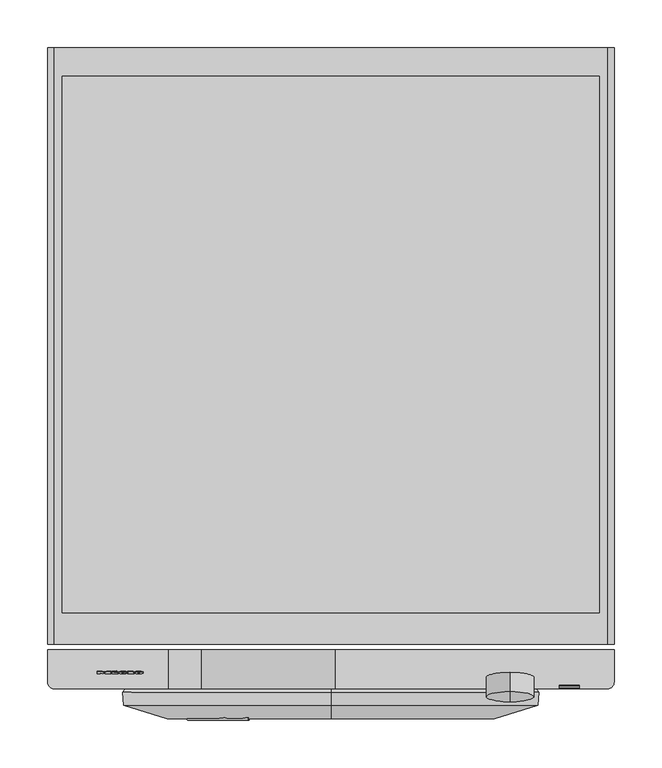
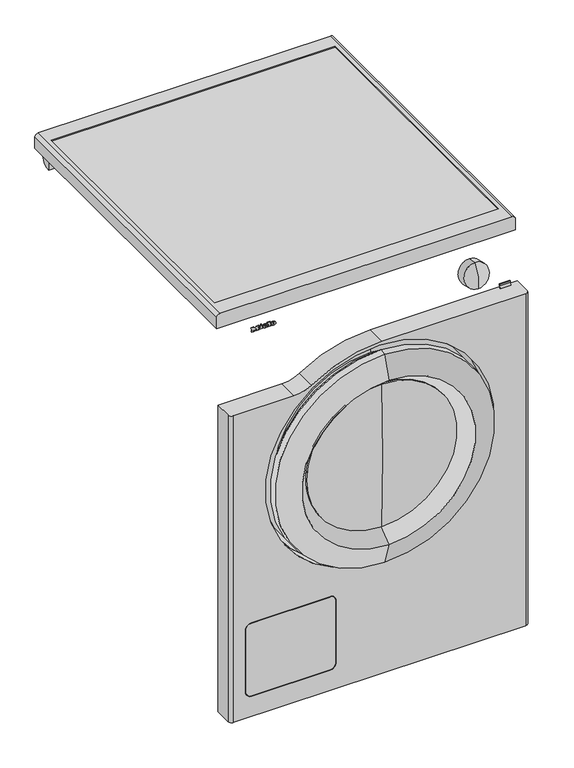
"""IFC4 building model written with IfcOpenShell, lengths in millimetres: proxy geometry, 11470760_ZER_PWM307DP_LWCC : 51307172_ZER_11470760_PWM307DP_LWCC."""

from ifc_helpers import new_model, si_unit, point, frame, frame_2d, origin, place, context, project, spatial, polyline, circle_curve, ellipse_curve, trimmed, segment, composite_curve, outline, extrude, source, transform, mapped, element, save
from ifc_brep_helpers import plane_surface, cylinder_surface, revolved_surface, extruded_surface, advanced_brep


def specialty_equipment_d562a600(model_context):
    return source(origin(), model_context, "Body", "SolidModel", [
        advanced_brep(
        [(-202.64, -661.6785086, 811.5729364), (-202.64, -661.5105159, 812.3632796), (-197.288, -661.5105159, 812.3632796), (-206.6, -661.5105159, 812.3632796), (-204.4, -662.0727091, 809.7183685), (-197.424, -661.6785086, 811.5729364), (-199.84, -661.6785086, 811.5729364), (-201.744, -661.8647975, 810.6965161), (-202.64, -661.2976144, 813.3649028), (-202.64, -661.1163154, 814.2178475), (-201.272, -661.1163154, 814.2178475), (-201.272, -661.2976144, 813.3649028), (-202.64, -660.700361, 811.3650247), (-201.744, -660.8866499, 810.4886044), (-199.84, -660.700361, 811.3650247), (-197.424, -660.700361, 811.3650247), (-204.4, -661.0945615, 809.5104568), (-206.6, -660.5323683, 812.1553679), (-197.288, -660.5323683, 812.1553679), (-202.64, -660.5323683, 812.1553679), (-202.64, -660.3194668, 813.1569911), (-201.272, -660.3194668, 813.1569911), (-201.272, -660.1381678, 814.0099358), (-202.64, -660.1381678, 814.0099358)],
        [
            (0, 1),
            (1, 2),
            (2, 3, ellipse_curve(frame((-201.944, -661.5105159, 812.3632796), z_axis=(0.0, -0.9781476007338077, 0.2079116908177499), x_axis=(-1.0, 0.0, 0.0)), 4.656, 3.848)),
            (3, 4, circle_curve(frame((-203.5039564, -661.453964, 812.6293358), z_axis=(0.0, -0.9781476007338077, 0.2079116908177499), x_axis=(0.0, -0.2079116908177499, -0.9781476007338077)), 3.1079688)),
            (4, 5, circle_curve(frame((-202.0372064, -661.0148545, 814.6951835), z_axis=(0.0, -0.9781476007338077, 0.2079116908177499), x_axis=(0.0, -0.2079116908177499, -0.9781476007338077)), 5.6098607)),
            (5, 6),
            (6, 7, circle_curve(frame((-201.3529412, -661.5238223, 812.3006782), z_axis=(0.0, 0.9781476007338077, -0.2079116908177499), x_axis=(0.0, -0.2079116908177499, -0.9781476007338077)), 1.6859795)),
            (7, 0, circle_curve(frame((-201.744, -661.6785086, 811.5729364), z_axis=(0.0, 0.9781476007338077, -0.2079116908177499), x_axis=(0.0, -0.2079116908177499, -0.9781476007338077)), 0.896)),
            (8, 9),
            (9, 10, circle_curve(frame((-201.956, -661.1163154, 814.2178475), z_axis=(0.0, 0.9781476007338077, -0.2079116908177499), x_axis=(0.0, -0.2079116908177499, -0.9781476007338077)), 0.684)),
            (10, 11),
            (11, 8),
            (12, 13, circle_curve(frame((-201.744, -660.700361, 811.3650247), z_axis=(0.0, -0.9781476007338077, 0.2079116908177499), x_axis=(0.0, -0.2079116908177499, -0.9781476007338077)), 0.896)),
            (13, 14, circle_curve(frame((-201.3529412, -660.5456747, 812.0927665), z_axis=(0.0, -0.9781476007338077, 0.2079116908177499), x_axis=(0.0, -0.2079116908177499, -0.9781476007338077)), 1.6859795)),
            (14, 15),
            (15, 16, circle_curve(frame((-202.0372064, -660.0367069, 814.4872718), z_axis=(0.0, 0.9781476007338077, -0.2079116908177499), x_axis=(0.0, -0.2079116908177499, -0.9781476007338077)), 5.6098607)),
            (16, 17, circle_curve(frame((-203.5039564, -660.4758164, 812.4214241), z_axis=(0.0, 0.9781476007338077, -0.2079116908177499), x_axis=(0.0, -0.2079116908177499, -0.9781476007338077)), 3.1079688)),
            (17, 18, ellipse_curve(frame((-201.944, -660.5323683, 812.1553679), z_axis=(0.0, 0.9781476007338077, -0.2079116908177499), x_axis=(-1.0, 0.0, 0.0)), 4.656, 3.848)),
            (18, 19),
            (19, 12),
            (20, 21),
            (21, 22),
            (22, 23, circle_curve(frame((-201.956, -660.1381678, 814.0099358), z_axis=(0.0, -0.9781476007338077, 0.2079116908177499), x_axis=(0.0, -0.2079116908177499, -0.9781476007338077)), 0.684)),
            (23, 20),
            (0, 12),
            (19, 1),
            (18, 2),
            (5, 15),
            (14, 6),
            (17, 3),
            (13, 7),
            (16, 4),
            (8, 20),
            (23, 9),
            (22, 10),
            (21, 11),
        ],
        [
            plane_surface(frame((-202.64, -661.5105159, 812.3632796), z_axis=(0.0, -0.9781476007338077, 0.2079116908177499), x_axis=(0.0, 0.2079116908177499, 0.9781476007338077))),
            plane_surface(frame((-202.64, -660.5323683, 812.1553679), z_axis=(0.0, 0.9781476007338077, -0.2079116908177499), x_axis=(0.0, -0.2079116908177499, -0.9781476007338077))),
            plane_surface(frame((-202.64, -661.6785086, 811.5729364), z_axis=(1.0000000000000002, 0.0, 0.0), x_axis=(0.0, 0.978147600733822, -0.20791169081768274))),
            plane_surface(frame((-202.64, -661.5105159, 812.3632796), z_axis=(0.0, -0.20791169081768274, -0.978147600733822), x_axis=(0.0, 0.978147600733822, -0.20791169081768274))),
            plane_surface(frame((-197.424, -661.6785086, 811.5729364), z_axis=(0.0, 0.20791169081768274, 0.978147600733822), x_axis=(0.0, 0.978147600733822, -0.20791169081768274))),
            extruded_surface(trimmed(ellipse_curve(frame((-201.944, -659.5542207, 811.9474562), z_axis=(0.0, -0.9781476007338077, 0.2079116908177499), x_axis=(-1.0, 0.0, 0.0)), 4.656, 3.848), [point((-197.288, -659.5542207, 811.9474562))], [point((-206.6, -659.5542207, 811.9474562))], True, "CARTESIAN"), (0.0, -0.9781476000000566, 0.20791169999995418), 1.0000000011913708),
            revolved_surface(polyline([(-201.3529412, -660.896209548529, 810.4436296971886), (-201.3529412, -661.8743571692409, 810.6515413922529)]), (-201.3529412, -660.5456747, 812.0927665), (0.0, 0.9781476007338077, -0.2079116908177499)),
            revolved_surface(polyline([(-201.744, -660.8866498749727, 810.4886044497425), (-201.744, -661.8647974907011, 810.6965161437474)]), (-201.744, -660.700361, 811.3650247), (0.0, 0.9781476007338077, -0.2079116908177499)),
            cylinder_surface(frame((-203.5039564, -660.4758164, 812.4214241), z_axis=(0.0, -0.9781476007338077, 0.2079116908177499), x_axis=(0.0, -0.2079116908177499, -0.9781476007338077)), 3.1079688),
            cylinder_surface(frame((-202.0372064, -660.0367069, 814.4872718), z_axis=(0.0, -0.9781476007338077, 0.2079116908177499), x_axis=(0.0, -0.2079116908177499, -0.9781476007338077)), 5.6098607),
            plane_surface(frame((-202.64, -661.2976144, 813.3649028), z_axis=(1.0000000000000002, 0.0, 0.0), x_axis=(0.0, 0.9781476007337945, -0.20791169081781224))),
            revolved_surface(polyline([(-201.956, -660.2803793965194, 813.340882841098), (-201.956, -661.2585269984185, 813.5487945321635)]), (-201.956, -660.1381678, 814.0099358), (0.0, 0.9781476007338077, -0.2079116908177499)),
            plane_surface(frame((-201.272, -661.1163154, 814.2178475), z_axis=(-1.0000000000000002, 0.0, 0.0), x_axis=(0.0, 0.978147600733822, -0.20791169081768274))),
            plane_surface(frame((-201.272, -661.2976144, 813.3649028), z_axis=(0.0, 0.20791169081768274, 0.978147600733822), x_axis=(0.0, 0.978147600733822, -0.20791169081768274))),
        ],
        [
            (0, [[1, 2, 3, 4, 5, 6, 7, 8], [9, 10, 11, 12]]),
            (1, [[13, 14, 15, 16, 17, 18, 19, 20], [21, 22, 23, 24]]),
            (2, [[-1, 25, -20, 26]]),
            (3, [[-2, -26, -19, 27]]),
            (4, [[-6, 28, -15, 29]]),
            (5, [[-3, -27, -18, 30]]),
            (6, [[-7, -29, -14, 31]]),
            (7, [[-8, -31, -13, -25]]),
            (8, [[-4, -30, -17, 32]]),
            (9, [[-5, -32, -16, -28]]),
            (10, [[-9, 33, -24, 34]]),
            (11, [[-10, -34, -23, 35]]),
            (12, [[-11, -35, -22, 36]]),
            (13, [[-12, -36, -21, -33]]),
        ],
    ),
        advanced_brep(
        [(-219.336, -661.6785086, 811.5729364), (-219.336, -661.5105159, 812.3632796), (-213.984, -661.5105159, 812.3632796), (-223.296, -661.5105159, 812.3632796), (-221.096, -662.0727091, 809.7183685), (-214.12, -661.6785086, 811.5729364), (-216.536, -661.6785086, 811.5729364), (-218.44, -661.8647975, 810.6965161), (-219.336, -661.2976144, 813.3649028), (-219.336, -661.1163154, 814.2178475), (-217.968, -661.1163154, 814.2178475), (-217.968, -661.2976144, 813.3649028), (-219.336, -660.700361, 811.3650247), (-218.44, -660.8866499, 810.4886044), (-216.536, -660.700361, 811.3650247), (-214.12, -660.700361, 811.3650247), (-221.096, -661.0945615, 809.5104568), (-223.296, -660.5323683, 812.1553679), (-213.984, -660.5323683, 812.1553679), (-219.336, -660.5323683, 812.1553679), (-219.336, -660.3194668, 813.1569911), (-217.968, -660.3194668, 813.1569911), (-217.968, -660.1381678, 814.0099358), (-219.336, -660.1381678, 814.0099358)],
        [
            (0, 1),
            (1, 2),
            (2, 3, ellipse_curve(frame((-218.64, -661.5105159, 812.3632796), z_axis=(0.0, -0.9781476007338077, 0.2079116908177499), x_axis=(-1.0, 0.0, 0.0)), 4.656, 3.848)),
            (3, 4, circle_curve(frame((-220.1999564, -661.453964, 812.6293358), z_axis=(0.0, -0.9781476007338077, 0.2079116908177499), x_axis=(0.0, -0.2079116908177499, -0.9781476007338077)), 3.1079688)),
            (4, 5, circle_curve(frame((-218.7332064, -661.0148545, 814.6951835), z_axis=(0.0, -0.9781476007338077, 0.2079116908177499), x_axis=(0.0, -0.2079116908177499, -0.9781476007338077)), 5.6098607)),
            (5, 6),
            (6, 7, circle_curve(frame((-218.0489412, -661.5238223, 812.3006782), z_axis=(0.0, 0.9781476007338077, -0.2079116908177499), x_axis=(0.0, -0.2079116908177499, -0.9781476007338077)), 1.6859795)),
            (7, 0, circle_curve(frame((-218.44, -661.6785086, 811.5729364), z_axis=(0.0, 0.9781476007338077, -0.2079116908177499), x_axis=(0.0, -0.2079116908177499, -0.9781476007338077)), 0.896)),
            (8, 9),
            (9, 10, circle_curve(frame((-218.652, -661.1163154, 814.2178475), z_axis=(0.0, 0.9781476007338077, -0.2079116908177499), x_axis=(0.0, -0.2079116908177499, -0.9781476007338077)), 0.684)),
            (10, 11),
            (11, 8),
            (12, 13, circle_curve(frame((-218.44, -660.700361, 811.3650247), z_axis=(0.0, -0.9781476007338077, 0.2079116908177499), x_axis=(0.0, -0.2079116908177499, -0.9781476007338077)), 0.896)),
            (13, 14, circle_curve(frame((-218.0489412, -660.5456747, 812.0927665), z_axis=(0.0, -0.9781476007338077, 0.2079116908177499), x_axis=(0.0, -0.2079116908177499, -0.9781476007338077)), 1.6859795)),
            (14, 15),
            (15, 16, circle_curve(frame((-218.7332064, -660.0367069, 814.4872718), z_axis=(0.0, 0.9781476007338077, -0.2079116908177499), x_axis=(0.0, -0.2079116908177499, -0.9781476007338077)), 5.6098607)),
            (16, 17, circle_curve(frame((-220.1999564, -660.4758164, 812.4214241), z_axis=(0.0, 0.9781476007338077, -0.2079116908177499), x_axis=(0.0, -0.2079116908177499, -0.9781476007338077)), 3.1079688)),
            (17, 18, ellipse_curve(frame((-218.64, -660.5323683, 812.1553679), z_axis=(0.0, 0.9781476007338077, -0.2079116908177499), x_axis=(-1.0, 0.0, 0.0)), 4.656, 3.848)),
            (18, 19),
            (19, 12),
            (20, 21),
            (21, 22),
            (22, 23, circle_curve(frame((-218.652, -660.1381678, 814.0099358), z_axis=(0.0, -0.9781476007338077, 0.2079116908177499), x_axis=(0.0, -0.2079116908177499, -0.9781476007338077)), 0.684)),
            (23, 20),
            (0, 12),
            (19, 1),
            (18, 2),
            (5, 15),
            (14, 6),
            (17, 3),
            (13, 7),
            (16, 4),
            (8, 20),
            (23, 9),
            (22, 10),
            (21, 11),
        ],
        [
            plane_surface(frame((-219.336, -661.5105159, 812.3632796), z_axis=(0.0, -0.9781476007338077, 0.2079116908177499), x_axis=(0.0, 0.2079116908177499, 0.9781476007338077))),
            plane_surface(frame((-219.336, -660.5323683, 812.1553679), z_axis=(0.0, 0.9781476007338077, -0.2079116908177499), x_axis=(0.0, -0.2079116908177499, -0.9781476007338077))),
            plane_surface(frame((-219.336, -661.6785086, 811.5729364), z_axis=(1.0000000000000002, 0.0, 0.0), x_axis=(0.0, 0.978147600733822, -0.20791169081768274))),
            plane_surface(frame((-219.336, -661.5105159, 812.3632796), z_axis=(0.0, -0.20791169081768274, -0.978147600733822), x_axis=(0.0, 0.978147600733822, -0.20791169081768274))),
            plane_surface(frame((-214.12, -661.6785086, 811.5729364), z_axis=(0.0, 0.20791169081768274, 0.978147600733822), x_axis=(0.0, 0.978147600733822, -0.20791169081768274))),
            extruded_surface(trimmed(ellipse_curve(frame((-218.64, -659.5542207, 811.9474562), z_axis=(0.0, -0.9781476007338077, 0.2079116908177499), x_axis=(-1.0, 0.0, 0.0)), 4.656, 3.848), [point((-213.984, -659.5542207, 811.9474562))], [point((-223.296, -659.5542207, 811.9474562))], True, "CARTESIAN"), (0.0, -0.9781476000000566, 0.20791169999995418), 1.0000000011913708),
            revolved_surface(polyline([(-218.0489412, -660.896209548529, 810.4436296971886), (-218.0489412, -661.8743571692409, 810.6515413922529)]), (-218.0489412, -660.5456747, 812.0927665), (0.0, 0.9781476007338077, -0.2079116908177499)),
            revolved_surface(polyline([(-218.44, -660.8866498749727, 810.4886044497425), (-218.44, -661.8647974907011, 810.6965161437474)]), (-218.44, -660.700361, 811.3650247), (0.0, 0.9781476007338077, -0.2079116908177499)),
            cylinder_surface(frame((-220.1999564, -660.4758164, 812.4214241), z_axis=(0.0, -0.9781476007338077, 0.2079116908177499), x_axis=(0.0, -0.2079116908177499, -0.9781476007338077)), 3.1079688),
            cylinder_surface(frame((-218.7332064, -660.0367069, 814.4872718), z_axis=(0.0, -0.9781476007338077, 0.2079116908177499), x_axis=(0.0, -0.2079116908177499, -0.9781476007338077)), 5.6098607),
            plane_surface(frame((-219.336, -661.2976144, 813.3649028), z_axis=(1.0000000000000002, 0.0, 0.0), x_axis=(0.0, 0.9781476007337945, -0.20791169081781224))),
            revolved_surface(polyline([(-218.652, -660.2803793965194, 813.340882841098), (-218.652, -661.2585269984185, 813.5487945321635)]), (-218.652, -660.1381678, 814.0099358), (0.0, 0.9781476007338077, -0.2079116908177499)),
            plane_surface(frame((-217.968, -661.1163154, 814.2178475), z_axis=(-1.0000000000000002, 0.0, 0.0), x_axis=(0.0, 0.978147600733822, -0.20791169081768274))),
            plane_surface(frame((-217.968, -661.2976144, 813.3649028), z_axis=(0.0, 0.20791169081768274, 0.978147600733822), x_axis=(0.0, 0.978147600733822, -0.20791169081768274))),
        ],
        [
            (0, [[1, 2, 3, 4, 5, 6, 7, 8], [9, 10, 11, 12]]),
            (1, [[13, 14, 15, 16, 17, 18, 19, 20], [21, 22, 23, 24]]),
            (2, [[-1, 25, -20, 26]]),
            (3, [[-2, -26, -19, 27]]),
            (4, [[-6, 28, -15, 29]]),
            (5, [[-3, -27, -18, 30]]),
            (6, [[-7, -29, -14, 31]]),
            (7, [[-8, -31, -13, -25]]),
            (8, [[-4, -30, -17, 32]]),
            (9, [[-5, -32, -16, -28]]),
            (10, [[-9, 33, -24, 34]]),
            (11, [[-10, -34, -23, 35]]),
            (12, [[-11, -35, -22, 36]]),
            (13, [[-12, -36, -21, -33]]),
        ],
    ),
        extrude(outline(polyline([(0.0, 0.0), (-0.0109087, -2.9993294), (-1.4390416, -2.9920868), (-1.4315307, 0.0), (0.0, 0.0)])), frame((-228.08, -659.5294023, 816.873952), z_axis=(0.0, -0.9781476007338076, 0.20791169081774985), x_axis=(-0.42472021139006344, 0.18822758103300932, 0.8855411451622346)), (0.0, 0.0, 1.0), 1.0),
        extrude(outline(polyline([(-0.4933908, 2.4141097), (-2.7800844, -2.4601583), (-7.0459742, -0.4588766), (-7.4401146, -1.2990179), (-8.6568709, -0.728194), (-5.976037, 4.9862153), (-4.7592806, 4.4153913), (-5.1636142, 3.5535223), (-2.1941494, 2.16044), (-1.7898157, 3.0223091), (-0.4933908, 2.4141097)])), frame((-228.08, -659.5294023, 816.873952), z_axis=(0.0, -0.9781476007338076, 0.20791169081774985), x_axis=(-0.42472021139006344, 0.18822758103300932, 0.8855411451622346)), (0.0, 0.0, 1.0), 1.0),
        extrude(outline(polyline([(0.0, 0.0), (0.0, -1.3039999), (-5.504, -1.3039999), (-5.504, 5.352), (-6.488, 5.352), (-6.488, 6.696), (0.0, 6.696), (0.0, 5.352), (-0.96, 5.352), (-0.96, 0.0), (0.0, 0.0)])), frame((-213.536, -659.7023849, 816.0601332), z_axis=(0.0, -0.9781476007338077, 0.2079116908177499), x_axis=(-1.0, 0.0, 0.0)), (0.0, 0.0, 1.0), 1.0),
        extrude(outline(polyline([(0.0, 0.0), (0.0, -1.3039999), (-5.576, -1.3039999), (-7.92, 1.6960001), (-10.256, -1.3039999), (-15.128, -1.3039999), (-15.128, 0.0), (-14.112, 0.0), (-14.112, 5.352), (-15.128, 5.352), (-15.128, 6.696), (-8.744, 6.696), (-8.744, 5.352), (-9.728, 5.352), (-9.728, 1.8807777), (-6.136, 6.696), (-2.56, 1.9488753), (-2.56, 5.352), (-3.52, 5.352), (-3.52, 6.696), (0.0, 6.696), (0.0, 5.352), (-0.968, 5.352), (-0.968, 0.0), (0.0, 0.0)])), frame((-246.0, -659.7023849, 816.0601332), z_axis=(0.0, -0.9781476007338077, 0.2079116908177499), x_axis=(-1.0, 0.0, 0.0)), (0.0, 0.0, 1.0), 1.0),
        advanced_brep(
        [(-86.5, -711.2, 627.8223949), (-86.5, -708.2, 627.8223949), (-149.8223949, -711.2, 564.5), (-149.8223949, -708.2, 564.5)],
        [
            (0, 1, circle_curve(frame((-86.5, -709.7, 627.8223949), z_axis=(0.8660254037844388, 0.0, 0.49999999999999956), x_axis=(0.0, 1.0, 0.0)), 1.5)),
            (1, 0, circle_curve(frame((-86.5, -709.7, 627.8223949), z_axis=(0.8660254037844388, 0.0, 0.49999999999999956), x_axis=(0.0, 1.0, 0.0)), 1.5)),
            (2, 3, circle_curve(frame((-149.8223949, -709.7, 564.5), z_axis=(-0.5000000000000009, 0.0, -0.8660254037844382), x_axis=(0.0, 1.0, 0.0)), 1.5)),
            (3, 2, circle_curve(frame((-149.8223949, -709.7, 564.5), z_axis=(-0.5000000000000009, 0.0, -0.8660254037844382), x_axis=(0.0, 1.0, 0.0)), 1.5)),
            (3, 1, circle_curve(frame((0.0, -708.2, 478.0), z_axis=(0.0, 1.0, 0.0), x_axis=(-0.49999999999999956, 0.0, 0.8660254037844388)), 173.0)),
            (0, 2, circle_curve(frame((0.0, -711.2, 478.0), z_axis=(0.0, -1.0, 0.0), x_axis=(-0.49999999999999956, 0.0, 0.8660254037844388)), 173.0)),
        ],
        [
            plane_surface(frame((0.0, 1543.3738435, 478.0), z_axis=(0.8660254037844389, 0.0, 0.4999999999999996), x_axis=(-0.4999999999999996, 0.0, 0.8660254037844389))),
            plane_surface(frame((0.0, 1543.3738435, 478.0), z_axis=(-0.5000000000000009, 0.0, -0.8660254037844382), x_axis=(-0.8660254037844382, 0.0, 0.5000000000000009))),
            revolved_surface(trimmed(ellipse_curve(frame((-86.5, -709.7, 627.8223949), z_axis=(-0.8660254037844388, 0.0, -0.49999999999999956), x_axis=(0.0, 1.0, 0.0)), 1.5, 1.5), [point((-86.5, -708.2, 627.8223949))], [point((-86.5, -711.2, 627.8223949))], True, "CARTESIAN"), (0.0, 1543.3738435, 478.0), (0.0, 1.0, 0.0)),
            revolved_surface(trimmed(ellipse_curve(frame((-86.5, -709.7, 627.8223949), z_axis=(-0.8660254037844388, 0.0, -0.49999999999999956), x_axis=(0.0, 1.0, 0.0)), 1.5, 1.5), [point((-86.5, -711.2, 627.8223949))], [point((-86.5, -708.2, 627.8223949))], True, "CARTESIAN"), (0.0, 1543.3738435, 478.0), (0.0, 1.0, 0.0)),
        ],
        [
            (0, [[1, 2]]),
            (1, [[3, 4]]),
            (2, [[5, -1, 6, -4]]),
            (3, [[-6, -2, -5, -3]]),
        ],
    ),
        advanced_brep(
        [(0.0, -669.2, 328.0), (0.0, -669.2, 628.0), (0.0, -681.5454628, 628.0), (0.0, -681.5454628, 328.0), (0.0, -669.2, 314.0), (0.0, -669.2, 642.0), (0.0, -666.0, 302.5), (0.0, -666.0, 653.5), (0.0, -666.0, 270.7782663), (0.0, -666.0, 685.2217337), (0.0, -681.8, 257.8), (0.0, -681.8, 698.2), (0.0, -695.2157986, 259.0), (0.0, -695.2157986, 697.0), (0.0, -709.667863, 304.9), (0.0, -709.667863, 651.1)],
        [
            (0, 1, circle_curve(frame((0.0, -669.2, 478.0), z_axis=(0.0, 1.0, 0.0), x_axis=(0.0, 0.0, 1.0)), 150.0)),
            (1, 2),
            (2, 3, circle_curve(frame((0.0, -681.5454628, 478.0), z_axis=(0.0, -1.0, 0.0), x_axis=(0.0, 0.0, 1.0)), 150.0)),
            (3, 0),
            (1, 0, circle_curve(frame((0.0, -669.2, 478.0), z_axis=(0.0, 1.0, 0.0), x_axis=(0.0, 0.0, 1.0)), 150.0)),
            (3, 2, circle_curve(frame((0.0, -681.5454628, 478.0), z_axis=(0.0, -1.0, 0.0), x_axis=(0.0, 0.0, 1.0)), 150.0)),
            (4, 5, circle_curve(frame((0.0, -669.2, 478.0), z_axis=(0.0, 1.0, 0.0), x_axis=(0.0, 0.0, 1.0)), 164.0)),
            (5, 1),
            (0, 4),
            (5, 4, circle_curve(frame((0.0, -669.2, 478.0), z_axis=(0.0, 1.0, 0.0), x_axis=(0.0, 0.0, 1.0)), 164.0)),
            (6, 7, circle_curve(frame((0.0, -666.0, 478.0), z_axis=(0.0, 1.0, 0.0), x_axis=(0.0, 0.0, 1.0)), 175.5)),
            (7, 5),
            (4, 6),
            (7, 6, circle_curve(frame((0.0, -666.0, 478.0), z_axis=(0.0, 1.0, 0.0), x_axis=(0.0, 0.0, 1.0)), 175.5)),
            (8, 9, circle_curve(frame((0.0, -666.0, 478.0), z_axis=(0.0, 1.0, 0.0), x_axis=(0.0, 0.0, 1.0)), 207.2217337)),
            (9, 7),
            (6, 8),
            (9, 8, circle_curve(frame((0.0, -666.0, 478.0), z_axis=(0.0, 1.0, 0.0), x_axis=(0.0, 0.0, 1.0)), 207.2217337)),
            (10, 11, circle_curve(frame((0.0, -681.8, 478.0), z_axis=(0.0, 1.0, 0.0), x_axis=(0.0, 0.0, 1.0)), 220.2)),
            (11, 9),
            (8, 10),
            (11, 10, circle_curve(frame((0.0, -681.8, 478.0), z_axis=(0.0, 1.0, 0.0), x_axis=(0.0, 0.0, 1.0)), 220.2)),
            (12, 13, circle_curve(frame((0.0, -695.2157986, 478.0), z_axis=(0.0, 1.0, 0.0), x_axis=(0.0, 0.0, 1.0)), 219.0)),
            (13, 11),
            (10, 12),
            (13, 12, circle_curve(frame((0.0, -695.2157986, 478.0), z_axis=(0.0, 1.0, 0.0), x_axis=(0.0, 0.0, 1.0)), 219.0)),
            (14, 15, circle_curve(frame((0.0, -709.667863, 478.0), z_axis=(0.0, 1.0, 0.0), x_axis=(0.0, 0.0, 1.0)), 173.1)),
            (15, 13, circle_curve(frame((0.0, -130.6, 494.0), z_axis=(-1.0, 0.0, 0.0), x_axis=(0.0, 1.0, 0.0)), 600.0)),
            (12, 14, circle_curve(frame((0.0, -130.6, 462.0), z_axis=(-1.0, 0.0, 0.0), x_axis=(0.0, 1.0, 0.0)), 600.0)),
            (15, 14, circle_curve(frame((0.0, -709.667863, 478.0), z_axis=(0.0, 1.0, 0.0), x_axis=(0.0, 0.0, 1.0)), 173.1)),
            (2, 15),
            (14, 3),
        ],
        [
            revolved_surface(polyline([(0.0, -681.5454628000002, 628.0), (0.0, -669.2000000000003, 628.0)]), (0.0, 1543.3738435, 478.0), (0.0, -1.0, 0.0)),
            plane_surface(frame((0.0, -669.2, 478.0), z_axis=(0.0, 1.0, 0.0), x_axis=(0.0, 0.0, 1.0))),
            revolved_surface(polyline([(0.0, -669.2, 642.0), (0.0, -666.0, 653.5)]), (0.0, 1543.3738435, 478.0), (0.0, -1.0, 0.0)),
            plane_surface(frame((0.0, -666.0, 478.0), z_axis=(0.0, 1.0, 0.0), x_axis=(0.0, 0.0, 1.0))),
            revolved_surface(polyline([(0.0, -666.0, 685.2217337), (0.0, -681.8, 698.2)]), (0.0, 1543.3738435, 478.0), (0.0, -1.0, 0.0)),
            revolved_surface(polyline([(0.0, -681.8, 698.2), (0.0, -695.2157986, 697.0)]), (0.0, 1543.3738435, 478.0), (0.0, -1.0, 0.0)),
            revolved_surface(trimmed(ellipse_curve(frame((0.0, -130.6, 494.0), z_axis=(1.0, 0.0, 0.0), x_axis=(0.0, 1.0, 0.0)), 600.0, 600.0), [point((0.0, -695.2157986, 697.0))], [point((0.0, -709.667863, 651.1))], True, "CARTESIAN"), (0.0, 1543.3738435, 478.0), (0.0, -1.0, 0.0)),
            revolved_surface(polyline([(0.0, -709.667863, 651.1), (0.0, -681.5454628, 628.0)]), (0.0, 1543.3738435, 478.0), (0.0, -1.0, 0.0)),
        ],
        [
            (0, [[1, 2, 3, 4]]),
            (0, [[5, -4, 6, -2]]),
            (1, [[7, 8, -1, 9]]),
            (1, [[10, -9, -5, -8]]),
            (2, [[11, 12, -7, 13]]),
            (2, [[14, -13, -10, -12]]),
            (3, [[15, 16, -11, 17]]),
            (3, [[18, -17, -14, -16]]),
            (4, [[19, 20, -15, 21]]),
            (4, [[22, -21, -18, -20]]),
            (5, [[23, 24, -19, 25]]),
            (5, [[26, -25, -22, -24]]),
            (6, [[27, 28, -23, 29]]),
            (6, [[30, -29, -26, -28]]),
            (7, [[-3, 31, -27, 32]]),
            (7, [[-6, -32, -30, -31]]),
        ],
    ),
        advanced_brep(
        [(0.0, -682.3847498, 328.0), (0.0, -682.3847498, 628.0), (0.0, -685.2, 478.0), (0.0, -684.8865105, 328.0), (0.0, -684.8865105, 628.0), (0.0, -687.7, 478.0)],
        [
            (0, 1, circle_curve(frame((0.0, -682.3847498, 478.0), z_axis=(0.0, 1.0, 0.0), x_axis=(0.0, 0.0, 1.0)), 150.0)),
            (1, 2, circle_curve(frame((0.0, 3312.3, 478.0), z_axis=(1.0, 0.0, 0.0), x_axis=(0.0, 1.0, 0.0)), 3997.5)),
            (2, 0, circle_curve(frame((0.0, 3312.3, 478.0), z_axis=(1.0, 0.0, 0.0), x_axis=(0.0, 1.0, 0.0)), 3997.5)),
            (1, 0, circle_curve(frame((0.0, -682.3847498, 478.0), z_axis=(0.0, 1.0, 0.0), x_axis=(0.0, 0.0, 1.0)), 150.0)),
            (3, 4, circle_curve(frame((0.0, -684.8865105, 478.0), z_axis=(0.0, 1.0, 0.0), x_axis=(0.0, 0.0, 1.0)), 150.0)),
            (4, 1),
            (0, 3),
            (4, 3, circle_curve(frame((0.0, -684.8865105, 478.0), z_axis=(0.0, 1.0, 0.0), x_axis=(0.0, 0.0, 1.0)), 150.0)),
            (5, 4, circle_curve(frame((0.0, 3312.3, 478.0), z_axis=(-1.0, 0.0, 0.0), x_axis=(0.0, 1.0, 0.0)), 4000.0)),
            (3, 5, circle_curve(frame((0.0, 3312.3, 478.0), z_axis=(-1.0, 0.0, 0.0), x_axis=(0.0, 1.0, 0.0)), 4000.0)),
        ],
        [
            revolved_surface(trimmed(ellipse_curve(frame((0.0, 3312.3, 478.0), z_axis=(-1.0, 0.0, 0.0), x_axis=(0.0, 1.0, 0.0)), 3997.5, 3997.5), [point((0.0, -685.2, 478.0))], [point((0.0, -682.3847498, 628.0))], True, "CARTESIAN"), (0.0, 1543.3738435, 478.0), (0.0, -1.0, 0.0)),
            cylinder_surface(frame((0.0, 1543.3738435, 478.0), z_axis=(0.0, -1.0, 0.0), x_axis=(0.0, 0.0, 1.0)), 150.0),
            revolved_surface(trimmed(ellipse_curve(frame((0.0, 3312.3, 478.0), z_axis=(1.0, 0.0, 0.0), x_axis=(0.0, 1.0, 0.0)), 4000.0, 4000.0), [point((0.0, -684.8865105, 628.0))], [point((0.0, -687.7, 478.0))], True, "CARTESIAN"), (0.0, 1543.3738435, 478.0), (0.0, -1.0, 0.0)),
        ],
        [
            (0, [[1, 2, 3]]),
            (0, [[4, -3, -2]]),
            (1, [[5, 6, -1, 7]]),
            (1, [[8, -7, -4, -6]]),
            (2, [[9, -5, 10]]),
            (2, [[-10, -8, -9]]),
        ],
    ),
        advanced_brep(
        [(-291.0, -631.0, 846.0), (291.0, -631.0, 846.0), (291.0, -4.0, 846.0), (-291.0, -4.0, 846.0), (-282.5, -34.0, 846.0), (282.5, -34.0, 846.0), (282.5, -598.0, 846.0), (-282.5, -598.0, 846.0), (-282.5, -34.0, 843.7), (282.5, -34.0, 843.7), (298.0, -631.0, 816.0), (-298.0, -631.0, 816.0), (-298.0, -4.0, 816.0), (298.0, -4.0, 816.0), (298.0, -631.0, 839.0), (-298.0, -631.0, 839.0), (-298.0, -4.0, 839.0), (298.0, -4.0, 839.0), (-282.5, -598.0, 843.7), (282.5, -598.0, 843.7)],
        [
            (0, 1),
            (1, 2),
            (2, 3),
            (3, 0),
            (4, 5),
            (5, 6),
            (6, 7),
            (7, 4),
            (8, 9),
            (9, 5),
            (4, 8),
            (10, 11),
            (11, 12),
            (12, 13),
            (13, 10),
            (10, 14),
            (14, 1, circle_curve(frame((291.0, -631.0, 839.0), z_axis=(0.0, -1.0, 0.0), x_axis=(1.0, 0.0, 0.0)), 7.0)),
            (0, 15, circle_curve(frame((-291.0, -631.0, 839.0), z_axis=(0.0, -1.0, 0.0), x_axis=(1.0, 0.0, 0.0)), 7.0)),
            (15, 11),
            (12, 16),
            (16, 3, circle_curve(frame((-291.0, -4.0, 839.0), z_axis=(0.0, 1.0, 0.0), x_axis=(1.0, 0.0, 0.0)), 7.0)),
            (2, 17, circle_curve(frame((291.0, -4.0, 839.0), z_axis=(0.0, 1.0, 0.0), x_axis=(1.0, 0.0, 0.0)), 7.0)),
            (17, 13),
            (17, 14),
            (15, 16),
            (8, 18),
            (18, 19),
            (19, 9),
            (7, 18),
            (19, 6),
        ],
        [
            plane_surface(frame((291.0, -631.0, 846.0), z_axis=(0.0, 0.0, 1.0), x_axis=(0.0, 1.0, 0.0))),
            plane_surface(frame((282.5, -34.0, 846.0), z_axis=(0.0, -1.0, 0.0), x_axis=(0.0, 0.0, -1.0))),
            plane_surface(frame((-298.0, -631.0, 816.0), z_axis=(0.0, 0.0, -1.0), x_axis=(0.0, 1.0, 0.0))),
            plane_surface(frame((298.0, -631.0, 816.0), z_axis=(0.0, -1.0, 0.0), x_axis=(0.0, 0.0, 1.0))),
            plane_surface(frame((298.0, -4.0, 816.0), z_axis=(0.0, 1.0, 0.0), x_axis=(0.0, 0.0, -1.0))),
            plane_surface(frame((298.0, -631.0, 816.0), z_axis=(1.0, 0.0, 0.0), x_axis=(0.0, 1.0, 0.0))),
            plane_surface(frame((-298.0, -631.0, 839.0), z_axis=(-1.0, 0.0, 0.0), x_axis=(0.0, 1.0, 0.0))),
            cylinder_surface(frame((291.0, -4.0, 839.0), z_axis=(0.0, -1.0, 0.0), x_axis=(1.0, 0.0, 0.0)), 7.0),
            cylinder_surface(frame((-291.0, -4.0, 839.0), z_axis=(0.0, -1.0, 0.0), x_axis=(1.0, 0.0, 0.0)), 7.0),
            plane_surface(frame((-282.5, -34.0, 843.7), z_axis=(0.0, 0.0, 1.0), x_axis=(1.0, 0.0, 0.0))),
            plane_surface(frame((-282.5, -34.0, 846.0), z_axis=(1.0, 0.0, 0.0), x_axis=(0.0, 0.0, -1.0))),
            plane_surface(frame((282.5, -598.0, 846.0), z_axis=(-1.0, 0.0, 0.0), x_axis=(0.0, 0.0, -1.0))),
            plane_surface(frame((-282.5, -598.0, 846.0), z_axis=(0.0, 1.0, 0.0), x_axis=(0.0, 0.0, -1.0))),
        ],
        [
            (0, [[1, 2, 3, 4], [5, 6, 7, 8]]),
            (1, [[9, 10, -5, 11]]),
            (2, [[12, 13, 14, 15]]),
            (3, [[16, 17, -1, 18, 19, -12]]),
            (4, [[-14, 20, 21, -3, 22, 23]]),
            (5, [[-16, -15, -23, 24]]),
            (6, [[-19, 25, -20, -13]]),
            (7, [[-17, -24, -22, -2]]),
            (8, [[-18, -4, -21, -25]]),
            (9, [[-9, 26, 27, 28]]),
            (10, [[-26, -11, -8, 29]]),
            (11, [[-28, 30, -6, -10]]),
            (12, [[-27, -29, -7, -30]]),
        ],
    ),
        extrude(outline(composite_curve([segment(polyline([(-13.6220839, 816.0), (-13.6220839, 807.1251898)]), True, "CONTINUOUS"), segment(trimmed(circle_curve(frame_2d((-36.0, 807.1251898)), 22.3779161), [point((-13.6220839, 807.1251898))], [point((-35.0, 784.7696284))], False, "CARTESIAN"), True, "CONTINUOUS"), segment(polyline([(-35.0, 784.7696284), (-35.0, 816.0), (-13.6220839, 816.0)]), True, "CONTINUOUS")], self_intersect=False)), frame((264.2, 0.0, 0.0), z_axis=(1.0, 0.0, 0.0), x_axis=(0.0, 1.0, 0.0)), (0.0, 0.0, 1.0), 24.0),
        extrude(outline(composite_curve([segment(polyline([(-35.0, 784.7696284), (-35.0, 816.0), (-13.6220839, 816.0), (-13.6220839, 807.1251898)]), True, "CONTINUOUS"), segment(trimmed(circle_curve(frame_2d((-36.0, 807.1251898)), 22.3779161), [point((-13.6220839, 807.1251898))], [point((-35.0, 784.7696284))], False, "CARTESIAN"), True, "CONTINUOUS")], self_intersect=False)), frame((-288.2, 0.0, 0.0), z_axis=(1.0, 0.0, 0.0), x_axis=(0.0, 1.0, 0.0)), (0.0, 0.0, 1.0), 24.0),
        advanced_brep(
        [(298.0, -637.0, 712.0), (298.0, -637.0, 13.5), (-298.0, -637.0, 13.5), (-298.0, -637.0, 659.0), (-170.4793435, -637.0, 659.0), (-135.8816811, -637.0, 669.4495268), (5.0, -637.0, 712.0), (0.0, -637.0, 628.0), (0.0, -637.0, 328.0), (-99.0, -637.0, 211.0), (-255.0, -637.0, 211.0), (-267.0, -637.0, 199.0), (-267.0, -637.0, 68.0), (-255.0, -637.0, 56.0), (-99.0, -637.0, 56.0), (-87.0, -637.0, 68.0), (-87.0, -637.0, 199.0), (-291.0, -678.0, 13.5), (291.0, -678.0, 13.5), (291.0, -678.0, 712.0), (5.0, -678.0, 712.0), (-135.8816811, -678.0, 669.4495268), (-170.4793435, -678.0, 659.0), (-291.0, -678.0, 659.0), (0.0, -678.0, 250.5), (0.0, -678.0, 705.5), (-255.0, -678.0, 211.0), (-99.0, -678.0, 211.0), (-87.0, -678.0, 199.0), (-87.0, -678.0, 68.0), (-99.0, -678.0, 56.0), (-255.0, -678.0, 56.0), (-267.0, -678.0, 68.0), (-267.0, -678.0, 199.0), (298.0, -671.0, 712.0), (-298.0, -671.0, 13.5), (-298.0, -671.0, 659.0), (298.0, -671.0, 13.5), (0.0, -653.2, 705.5), (0.0, -653.2, 250.5), (0.0, -645.7, 671.0), (0.0, -645.7, 698.0), (0.0, -645.7, 258.0), (0.0, -645.7, 285.0), (0.0, -638.7, 289.0414519), (0.0, -638.7, 666.9585481), (0.0, -638.7, 322.8), (0.0, -638.7, 633.2), (0.0, -648.5, 322.8), (0.0, -648.5, 633.2), (0.0, -648.5, 341.8), (0.0, -648.5, 614.2), (0.0, -646.0, 341.8), (0.0, -646.0, 614.2), (0.0, -646.0, 328.0), (0.0, -646.0, 628.0)],
        [
            (0, 1),
            (1, 2),
            (2, 3),
            (3, 4),
            (4, 5, circle_curve(frame((-170.4793435, -637.0, 721.5), z_axis=(0.0, -1.0, 0.0), x_axis=(1.0, 0.0, 0.0)), 62.5)),
            (5, 6, circle_curve(frame((5.0, -637.0, 457.5), z_axis=(0.0, 1.0, 0.0), x_axis=(1.0, 0.0, 0.0)), 254.5)),
            (6, 0),
            (7, 8, circle_curve(frame((0.0, -637.0, 478.0), z_axis=(0.0, -1.0, 0.0), x_axis=(0.0, 0.0, -1.0)), 150.0)),
            (8, 7, circle_curve(frame((0.0, -637.0, 478.0), z_axis=(0.0, -1.0, 0.0), x_axis=(0.0, 0.0, -1.0)), 150.0)),
            (9, 10),
            (10, 11, circle_curve(frame((-255.0, -637.0, 199.0), z_axis=(0.0, -1.0, 0.0), x_axis=(1.0, 0.0, 0.0)), 12.0)),
            (11, 12),
            (12, 13, circle_curve(frame((-255.0, -637.0, 68.0), z_axis=(0.0, -1.0, 0.0), x_axis=(1.0, 0.0, 0.0)), 12.0)),
            (13, 14),
            (14, 15, circle_curve(frame((-99.0, -637.0, 68.0), z_axis=(0.0, -1.0, 0.0), x_axis=(1.0, 0.0, 0.0)), 12.0)),
            (15, 16),
            (16, 9, circle_curve(frame((-99.0, -637.0, 199.0), z_axis=(0.0, -1.0, 0.0), x_axis=(1.0, 0.0, 0.0)), 12.0)),
            (17, 18),
            (18, 19),
            (19, 20),
            (20, 21, circle_curve(frame((5.0, -678.0, 457.5), z_axis=(0.0, -1.0, 0.0), x_axis=(1.0, 0.0, 0.0)), 254.5)),
            (21, 22, circle_curve(frame((-170.4793435, -678.0, 721.5), z_axis=(0.0, 1.0, 0.0), x_axis=(1.0, 0.0, 0.0)), 62.5)),
            (22, 23),
            (23, 17),
            (24, 25, circle_curve(frame((0.0, -678.0, 478.0), z_axis=(0.0, 1.0, 0.0), x_axis=(0.0, 0.0, -1.0)), 227.5)),
            (25, 24, circle_curve(frame((0.0, -678.0, 478.0), z_axis=(0.0, 1.0, 0.0), x_axis=(0.0, 0.0, -1.0)), 227.5)),
            (26, 27),
            (27, 28, circle_curve(frame((-99.0, -678.0, 199.0), z_axis=(0.0, 1.0, 0.0), x_axis=(1.0, 0.0, 0.0)), 12.0)),
            (28, 29),
            (29, 30, circle_curve(frame((-99.0, -678.0, 68.0), z_axis=(0.0, 1.0, 0.0), x_axis=(1.0, 0.0, 0.0)), 12.0)),
            (30, 31),
            (31, 32, circle_curve(frame((-255.0, -678.0, 68.0), z_axis=(0.0, 1.0, 0.0), x_axis=(1.0, 0.0, 0.0)), 12.0)),
            (32, 33),
            (33, 26, circle_curve(frame((-255.0, -678.0, 199.0), z_axis=(0.0, 1.0, 0.0), x_axis=(1.0, 0.0, 0.0)), 12.0)),
            (34, 0),
            (6, 20),
            (19, 34, circle_curve(frame((291.0, -671.0, 712.0), z_axis=(0.0, 0.0, 1.0), x_axis=(-1.0, 0.0, 0.0)), 7.0)),
            (2, 35),
            (35, 36),
            (36, 3),
            (1, 37),
            (37, 18, circle_curve(frame((291.0, -671.0, 13.5), z_axis=(0.0, 0.0, -1.0), x_axis=(-1.0, 0.0, 0.0)), 7.0)),
            (17, 35, circle_curve(frame((-291.0, -671.0, 13.5), z_axis=(0.0, 0.0, -1.0), x_axis=(-1.0, 0.0, 0.0)), 7.0)),
            (34, 37),
            (38, 25),
            (24, 39),
            (39, 38, circle_curve(frame((0.0, -653.2, 478.0), z_axis=(0.0, 1.0, 0.0), x_axis=(0.0, 0.0, -1.0)), 227.5)),
            (38, 39, circle_curve(frame((0.0, -653.2, 478.0), z_axis=(0.0, 1.0, 0.0), x_axis=(0.0, 0.0, -1.0)), 227.5)),
            (40, 41),
            (41, 42, circle_curve(frame((0.0, -645.7, 478.0), z_axis=(0.0, -1.0, 0.0), x_axis=(0.0, 0.0, -1.0)), 220.0)),
            (42, 43),
            (43, 40, circle_curve(frame((0.0, -645.7, 478.0), z_axis=(0.0, 1.0, 0.0), x_axis=(0.0, 0.0, -1.0)), 193.0)),
            (40, 43, circle_curve(frame((0.0, -645.7, 478.0), z_axis=(0.0, 1.0, 0.0), x_axis=(0.0, 0.0, -1.0)), 193.0)),
            (42, 41, circle_curve(frame((0.0, -645.7, 478.0), z_axis=(0.0, -1.0, 0.0), x_axis=(0.0, 0.0, -1.0)), 220.0)),
            (43, 44),
            (44, 45, circle_curve(frame((0.0, -638.7, 478.0), z_axis=(0.0, 1.0, 0.0), x_axis=(0.0, 0.0, -1.0)), 188.9585481)),
            (45, 40),
            (45, 44, circle_curve(frame((0.0, -638.7, 478.0), z_axis=(0.0, 1.0, 0.0), x_axis=(0.0, 0.0, -1.0)), 188.9585481)),
            (44, 46),
            (46, 47, circle_curve(frame((0.0, -638.7, 478.0), z_axis=(0.0, 1.0, 0.0), x_axis=(0.0, 0.0, -1.0)), 155.2)),
            (47, 45),
            (47, 46, circle_curve(frame((0.0, -638.7, 478.0), z_axis=(0.0, 1.0, 0.0), x_axis=(0.0, 0.0, -1.0)), 155.2)),
            (46, 48),
            (48, 49, circle_curve(frame((0.0, -648.5, 478.0), z_axis=(0.0, 1.0, 0.0), x_axis=(0.0, 0.0, -1.0)), 155.2)),
            (49, 47),
            (49, 48, circle_curve(frame((0.0, -648.5, 478.0), z_axis=(0.0, 1.0, 0.0), x_axis=(0.0, 0.0, -1.0)), 155.2)),
            (48, 50),
            (50, 51, circle_curve(frame((0.0, -648.5, 478.0), z_axis=(0.0, 1.0, 0.0), x_axis=(0.0, 0.0, -1.0)), 136.2)),
            (51, 49),
            (51, 50, circle_curve(frame((0.0, -648.5, 478.0), z_axis=(0.0, 1.0, 0.0), x_axis=(0.0, 0.0, -1.0)), 136.2)),
            (50, 52),
            (52, 53, circle_curve(frame((0.0, -646.0, 478.0), z_axis=(0.0, 1.0, 0.0), x_axis=(0.0, 0.0, -1.0)), 136.2)),
            (53, 51),
            (53, 52, circle_curve(frame((0.0, -646.0, 478.0), z_axis=(0.0, 1.0, 0.0), x_axis=(0.0, 0.0, -1.0)), 136.2)),
            (52, 54),
            (54, 55, circle_curve(frame((0.0, -646.0, 478.0), z_axis=(0.0, 1.0, 0.0), x_axis=(0.0, 0.0, -1.0)), 150.0)),
            (55, 53),
            (55, 54, circle_curve(frame((0.0, -646.0, 478.0), z_axis=(0.0, 1.0, 0.0), x_axis=(0.0, 0.0, -1.0)), 150.0)),
            (54, 8),
            (7, 55),
            (39, 42, circle_curve(frame((0.0, -653.2, 258.0), z_axis=(1.0, 0.0, 0.0), x_axis=(0.0, 1.0, 0.0)), 7.5)),
            (41, 38, circle_curve(frame((0.0, -653.2, 698.0), z_axis=(1.0, 0.0, 0.0), x_axis=(0.0, 1.0, 0.0)), 7.5)),
            (5, 21),
            (4, 22),
            (36, 23, circle_curve(frame((-291.0, -671.0, 659.0), z_axis=(0.0, 0.0, 1.0), x_axis=(-1.0, 0.0, 0.0)), 7.0)),
            (26, 10),
            (9, 27),
            (33, 11),
            (32, 12),
            (31, 13),
            (30, 14),
            (29, 15),
            (28, 16),
        ],
        [
            plane_surface(frame((-298.0, -637.0, 712.0), z_axis=(0.0, 1.0, 0.0), x_axis=(1.0, 0.0, 0.0))),
            plane_surface(frame((-298.0, -678.0, 712.0), z_axis=(0.0, -1.0, 0.0), x_axis=(-1.0, 0.0, 0.0))),
            plane_surface(frame((298.0, -678.0, 712.0), z_axis=(0.0, 0.0, 1.0), x_axis=(0.0, 1.0, 0.0))),
            plane_surface(frame((-298.0, -678.0, 712.0), z_axis=(-1.0, 0.0, 0.0), x_axis=(0.0, 1.0, 0.0))),
            plane_surface(frame((-298.0, -678.0, 13.5), z_axis=(0.0, 0.0, -1.0), x_axis=(0.0, 1.0, 0.0))),
            plane_surface(frame((298.0, -678.0, 13.5), z_axis=(1.0, 0.0, 0.0), x_axis=(0.0, 1.0, 0.0))),
            revolved_surface(polyline([(0.0, -653.2000000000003, 250.5), (0.0, -678.0, 250.5)]), (0.0, 1543.3738435, 478.0), (0.0, 1.0, 0.0)),
            plane_surface(frame((0.0, -645.7, 478.0), z_axis=(0.0, -1.0, 0.0), x_axis=(0.0, 0.0, -1.0))),
            revolved_surface(polyline([(0.0, -638.7, 289.0414519), (0.0, -645.7, 285.0)]), (0.0, 1543.3738435, 478.0), (0.0, 1.0, 0.0)),
            plane_surface(frame((0.0, -638.7, 478.0), z_axis=(0.0, -1.0, 0.0), x_axis=(0.0, 0.0, -1.0))),
            cylinder_surface(frame((0.0, 1543.3738435, 478.0), z_axis=(0.0, 1.0, 0.0), x_axis=(0.0, 0.0, -1.0)), 155.2),
            plane_surface(frame((0.0, -648.5, 478.0), z_axis=(0.0, -1.0, 0.0), x_axis=(0.0, 0.0, -1.0))),
            revolved_surface(polyline([(0.0, -646.0, 341.8), (0.0, -648.5, 341.8)]), (0.0, 1543.3738435, 478.0), (0.0, 1.0, 0.0)),
            plane_surface(frame((0.0, -646.0, 478.0), z_axis=(0.0, 1.0, 0.0), x_axis=(0.0, 0.0, -1.0))),
            revolved_surface(polyline([(0.0, -637.0, 328.0), (0.0, -646.0, 328.0)]), (0.0, 1543.3738435, 478.0), (0.0, 1.0, 0.0)),
            revolved_surface(trimmed(ellipse_curve(frame((0.0, -653.2, 258.0), z_axis=(-1.0, 0.0, 0.0), x_axis=(0.0, 1.0, 0.0)), 7.5, 7.5), [point((0.0, -645.7, 258.0))], [point((0.0, -653.2, 250.5))], True, "CARTESIAN"), (0.0, 1543.3738435, 478.0), (0.0, 1.0, 0.0)),
            cylinder_surface(frame((5.0, -637.0, 457.5), z_axis=(0.0, 1.0, 0.0), x_axis=(1.0, 0.0, 0.0)), 254.5),
            revolved_surface(polyline([(-107.9793435, -678.0, 721.5), (-107.9793435, -637.0, 721.5)]), (-170.4793435, -637.0, 721.5), (0.0, -1.0, 0.0)),
            plane_surface(frame((-298.0, -678.0, 659.0), z_axis=(0.0, 0.0, 1.0), x_axis=(0.0, 1.0, 0.0))),
            cylinder_surface(frame((-291.0, -671.0, 712.0), z_axis=(0.0, 0.0, -1.0), x_axis=(-1.0, 0.0, 0.0)), 7.0),
            cylinder_surface(frame((291.0, -671.0, 712.0), z_axis=(0.0, 0.0, -1.0), x_axis=(-1.0, 0.0, 0.0)), 7.0),
            plane_surface(frame((-99.0, -678.0, 211.0), z_axis=(0.0, 0.0, -1.0), x_axis=(0.0, 1.0, 0.0))),
            revolved_surface(polyline([(-243.0, -678.0, 199.0), (-243.0, -637.0, 199.0)]), (-255.0, -637.0, 199.0), (0.0, -1.0, 0.0)),
            plane_surface(frame((-267.0, -678.0, 199.0), z_axis=(1.0, 0.0, 0.0), x_axis=(0.0, 1.0, 0.0))),
            revolved_surface(polyline([(-243.0, -678.0, 68.0), (-243.0, -637.0, 68.0)]), (-255.0, -637.0, 68.0), (0.0, -1.0, 0.0)),
            plane_surface(frame((-255.0, -678.0, 56.0), z_axis=(0.0, 0.0, 1.0), x_axis=(0.0, 1.0, 0.0))),
            revolved_surface(polyline([(-87.0, -678.0, 68.0), (-87.0, -637.0, 68.0)]), (-99.0, -637.0, 68.0), (0.0, -1.0, 0.0)),
            plane_surface(frame((-87.0, -678.0, 68.0), z_axis=(-1.0, 0.0, 0.0), x_axis=(0.0, 1.0, 0.0))),
            revolved_surface(polyline([(-87.0, -678.0, 199.0), (-87.0, -637.0, 199.0)]), (-99.0, -637.0, 199.0), (0.0, -1.0, 0.0)),
        ],
        [
            (0, [[1, 2, 3, 4, 5, 6, 7], [8, 9], [10, 11, 12, 13, 14, 15, 16, 17]]),
            (1, [[18, 19, 20, 21, 22, 23, 24], [25, 26], [27, 28, 29, 30, 31, 32, 33, 34]]),
            (2, [[35, -7, 36, -20, 37]]),
            (3, [[38, 39, 40, -3]]),
            (4, [[-2, 41, 42, -18, 43, -38]]),
            (5, [[-1, -35, 44, -41]]),
            (6, [[45, -25, 46, 47]]),
            (6, [[-45, 48, -46, -26]]),
            (7, [[49, 50, 51, 52]]),
            (7, [[-49, 53, -51, 54]]),
            (8, [[-52, 55, 56, 57]]),
            (8, [[-53, -57, 58, -55]]),
            (9, [[-56, 59, 60, 61]]),
            (9, [[-58, -61, 62, -59]]),
            (10, [[-60, 63, 64, 65]]),
            (10, [[-62, -65, 66, -63]]),
            (11, [[-64, 67, 68, 69]]),
            (11, [[-66, -69, 70, -67]]),
            (12, [[-68, 71, 72, 73]]),
            (12, [[-70, -73, 74, -71]]),
            (13, [[-72, 75, 76, 77]]),
            (13, [[-74, -77, 78, -75]]),
            (14, [[-76, 79, -8, 80]]),
            (14, [[-78, -80, -9, -79]]),
            (15, [[-47, 81, -50, 82]]),
            (15, [[-48, -82, -54, -81]]),
            (16, [[83, -21, -36, -6]]),
            (17, [[-83, -5, 84, -22]]),
            (18, [[-84, -4, -40, 85, -23]]),
            (19, [[-43, -24, -85, -39]]),
            (20, [[-19, -42, -44, -37]]),
            (21, [[86, -10, 87, -27]]),
            (22, [[-86, -34, 88, -11]]),
            (23, [[-88, -33, 89, -12]]),
            (24, [[-89, -32, 90, -13]]),
            (25, [[-90, -31, 91, -14]]),
            (26, [[-91, -30, 92, -15]]),
            (27, [[-92, -29, 93, -16]]),
            (28, [[-87, -17, -93, -28]]),
        ],
    ),
        advanced_brep(
        [(-99.0, -637.0, 210.0), (-88.0, -637.0, 199.0), (-88.0, -637.0, 68.0), (-99.0, -637.0, 57.0), (-255.0, -637.0, 57.0), (-266.0, -637.0, 68.0), (-266.0, -637.0, 199.0), (-255.0, -637.0, 210.0), (-88.0, -678.0, 199.0), (-99.0, -678.0, 210.0), (-255.0, -678.0, 210.0), (-266.0, -678.0, 199.0), (-266.0, -678.0, 68.0), (-255.0, -678.0, 57.0), (-99.0, -678.0, 57.0), (-88.0, -678.0, 68.0)],
        [
            (0, 1, circle_curve(frame((-99.0, -637.0, 199.0), z_axis=(0.0, 1.0, 0.0), x_axis=(1.0, 0.0, 0.0)), 11.0)),
            (1, 2),
            (2, 3, circle_curve(frame((-99.0, -637.0, 68.0), z_axis=(0.0, 1.0, 0.0), x_axis=(1.0, 0.0, 0.0)), 11.0)),
            (3, 4),
            (4, 5, circle_curve(frame((-255.0, -637.0, 68.0), z_axis=(0.0, 1.0, 0.0), x_axis=(1.0, 0.0, 0.0)), 11.0)),
            (5, 6),
            (6, 7, circle_curve(frame((-255.0, -637.0, 199.0), z_axis=(0.0, 1.0, 0.0), x_axis=(1.0, 0.0, 0.0)), 11.0)),
            (7, 0),
            (8, 9, circle_curve(frame((-99.0, -678.0, 199.0), z_axis=(0.0, -1.0, 0.0), x_axis=(1.0, 0.0, 0.0)), 11.0)),
            (9, 10),
            (10, 11, circle_curve(frame((-255.0, -678.0, 199.0), z_axis=(0.0, -1.0, 0.0), x_axis=(1.0, 0.0, 0.0)), 11.0)),
            (11, 12),
            (12, 13, circle_curve(frame((-255.0, -678.0, 68.0), z_axis=(0.0, -1.0, 0.0), x_axis=(1.0, 0.0, 0.0)), 11.0)),
            (13, 14),
            (14, 15, circle_curve(frame((-99.0, -678.0, 68.0), z_axis=(0.0, -1.0, 0.0), x_axis=(1.0, 0.0, 0.0)), 11.0)),
            (15, 8),
            (8, 1),
            (0, 9),
            (15, 2),
            (14, 3),
            (13, 4),
            (12, 5),
            (11, 6),
            (10, 7),
        ],
        [
            plane_surface(frame((-298.0, -637.0, 712.0), z_axis=(0.0, 1.0, 0.0), x_axis=(1.0, 0.0, 0.0))),
            plane_surface(frame((-298.0, -678.0, 712.0), z_axis=(0.0, -1.0, 0.0), x_axis=(-1.0, 0.0, 0.0))),
            cylinder_surface(frame((-99.0, 0.0, 199.0), z_axis=(0.0, 1.0, 0.0), x_axis=(1.0, 0.0, 0.0)), 11.0),
            plane_surface(frame((-88.0, -678.0, 199.0), z_axis=(1.0, 0.0, 0.0), x_axis=(0.0, 1.0, 0.0))),
            cylinder_surface(frame((-99.0, 0.0, 68.0), z_axis=(0.0, 1.0, 0.0), x_axis=(1.0, 0.0, 0.0)), 11.0),
            plane_surface(frame((-99.0, -678.0, 57.0), z_axis=(0.0, 0.0, -1.0), x_axis=(0.0, 1.0, 0.0))),
            cylinder_surface(frame((-255.0, 0.0, 68.0), z_axis=(0.0, 1.0, 0.0), x_axis=(1.0, 0.0, 0.0)), 11.0),
            plane_surface(frame((-266.0, -678.0, 68.0), z_axis=(-1.0, 0.0, 0.0), x_axis=(0.0, 1.0, 0.0))),
            cylinder_surface(frame((-255.0, 0.0, 199.0), z_axis=(0.0, 1.0, 0.0), x_axis=(1.0, 0.0, 0.0)), 11.0),
            plane_surface(frame((-255.0, -678.0, 210.0), z_axis=(0.0, 0.0, 1.0), x_axis=(0.0, 1.0, 0.0))),
        ],
        [
            (0, [[1, 2, 3, 4, 5, 6, 7, 8]]),
            (1, [[9, 10, 11, 12, 13, 14, 15, 16]]),
            (2, [[17, -1, 18, -9]]),
            (3, [[-17, -16, 19, -2]]),
            (4, [[-19, -15, 20, -3]]),
            (5, [[-20, -14, 21, -4]]),
            (6, [[-21, -13, 22, -5]]),
            (7, [[-22, -12, 23, -6]]),
            (8, [[-23, -11, 24, -7]]),
            (9, [[-18, -8, -24, -10]]),
        ],
    ),
        advanced_brep(
        [(188.5, -666.0968325, 787.0), (188.5, -671.2946248, 762.54631), (188.5, -660.8990403, 811.45369), (188.5, -681.1294216, 815.7537903), (188.5, -691.5250061, 766.8464103), (188.5, -691.5250061, 792.4049251)],
        [
            (0, 1),
            (1, 2, circle_curve(frame((188.5, -666.0968325, 787.0), z_axis=(0.0, 0.9781476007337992, -0.2079116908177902), x_axis=(0.0, -0.20791169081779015, -0.978147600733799)), 25.0)),
            (2, 0),
            (2, 1, circle_curve(frame((188.5, -666.0968325, 787.0), z_axis=(0.0, 0.9781476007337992, -0.2079116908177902), x_axis=(0.0, -0.20791169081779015, -0.978147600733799)), 25.0)),
            (3, 4, circle_curve(frame((188.5, -686.3272138, 791.3001003), z_axis=(0.0, -0.9781476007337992, 0.2079116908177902), x_axis=(0.0, -0.20791169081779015, -0.978147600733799)), 25.0)),
            (4, 5),
            (5, 3),
            (4, 3, circle_curve(frame((188.5, -686.3272138, 791.3001003), z_axis=(0.0, -0.9781476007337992, 0.2079116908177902), x_axis=(0.0, -0.20791169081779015, -0.978147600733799)), 25.0)),
            (1, 4),
            (3, 2),
        ],
        [
            plane_surface(frame((188.5, -666.0968325, 787.0), z_axis=(0.0, 0.9781476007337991, -0.20791169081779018), x_axis=(0.0, -0.20791169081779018, -0.9781476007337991))),
            revolved_surface(polyline([(188.5, -691.5250061, 792.4049251), (188.5, -691.5250061, 766.8464103)]), (188.5, -691.5250061, 792.4049251), (0.0, 0.978147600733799, -0.20791169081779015)),
            cylinder_surface(frame((188.5, -691.5250061, 792.4049251), z_axis=(0.0, 0.978147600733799, -0.20791169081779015), x_axis=(0.0, -0.20791169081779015, -0.978147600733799)), 25.0),
        ],
        [
            (0, [[1, 2, 3]]),
            (0, [[-3, 4, -1]]),
            (1, [[5, 6, 7]]),
            (1, [[8, -7, -6]]),
            (2, [[-2, 9, -5, 10]]),
            (2, [[-4, -10, -8, -9]]),
        ],
    ),
        extrude(outline(polyline([(-675.9807127, 740.5), (-678.0253939, 740.5), (-676.9026757, 745.7819736), (-675.6352392, 748.5), (-674.2802602, 748.5), (-675.9807127, 740.5)])), frame((240.5, 0.0, 0.0), z_axis=(1.0, 0.0, 0.0), x_axis=(0.0, 1.0, 0.0)), (0.0, 0.0, 1.0), 21.0),
    ])


if __name__ == "__main__":
    model = new_model("IFC4")
    model_context = context("Model", 3, world=origin())
    ifc_project = project(units=[si_unit("LENGTHUNIT", "METRE", prefix="MILLI")], contexts=[model_context])
    site = spatial("IfcSite", under=ifc_project)
    building = spatial("IfcBuilding", under=site)
    placement = place(None, origin())
    specialty_equipment_shape = specialty_equipment_d562a600(model_context)
    element("IfcBuildingElementProxy", 1, Name="11470760_ZER_PWM307DP_LWCC : 51307172_ZER_11470760_PWM307DP_LWCC", ObjectType="11470760_ZER_PWM307DP_LWCC : 51307172_ZER_11470760_PWM307DP_LWCC", at=placement, inside=building, context=model_context, shape_type="MappedRepresentation", body=[
        mapped(specialty_equipment_shape, transform((0.0, 0.0, 0.0), x_axis=(1.0, 0.0, 0.0), y_axis=(0.0, 1.0, 0.0), z_axis=(0.0, 0.0, 1.0))),
    ])
    save(model, "model.ifc")
